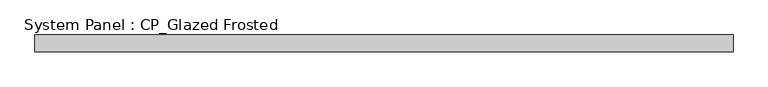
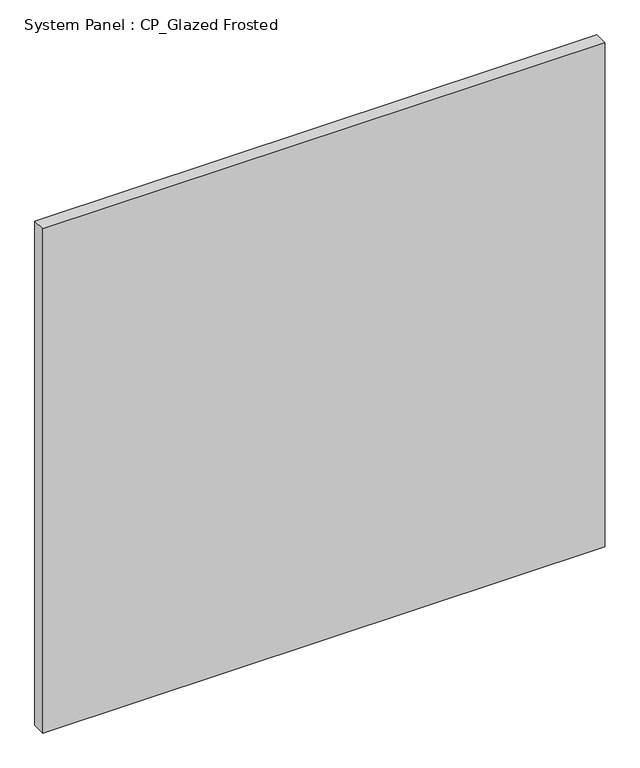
"""IFC4 building model written with IfcOpenShell, lengths in millimetres: plate geometry, System Panel : CP_Glazed Frosted."""

from ifc_helpers import new_model, si_unit, origin, origin_with_axes, place, context, project, spatial, polyline, outline, extrude, source, transform, mapped, element, save


def system_panel_cp_glazed_frosted_18e783af(model_context):
    return source(origin(), model_context, "Body", "SweptSolid", [
        extrude(outline(polyline([(523.875, 19.05), (-523.875, 19.05), (-523.875, 44.45), (523.875, 44.45), (523.875, 19.05)])), origin_with_axes(), (0.0, 0.0, 1.0), 992.98125),
    ])


if __name__ == "__main__":
    model = new_model("IFC4")
    model_context = context("Model", 3, world=origin())
    ifc_project = project(units=[si_unit("LENGTHUNIT", "METRE", prefix="MILLI")], contexts=[model_context])
    site = spatial("IfcSite", under=ifc_project)
    building = spatial("IfcBuilding", under=site)
    placement = place(None, origin())
    system_panel_cp_glazed_frosted_shape = system_panel_cp_glazed_frosted_18e783af(model_context)
    element("IfcPlate", 1, ObjectType="System Panel : CP_Glazed Frosted", at=placement, inside=building, context=model_context, shape_type="MappedRepresentation", body=[
        mapped(system_panel_cp_glazed_frosted_shape, transform((0.0, 0.0, 0.0), x_axis=(1.0, 0.0, 0.0), y_axis=(0.0, 1.0, 0.0), z_axis=(0.0, 0.0, 1.0))),
    ])
    save(model, "model.ifc")
